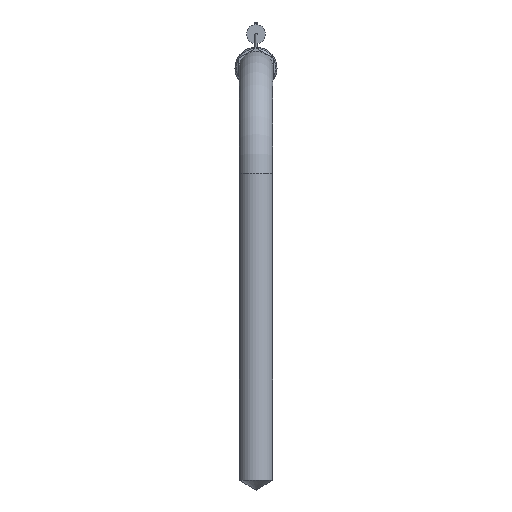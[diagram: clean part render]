
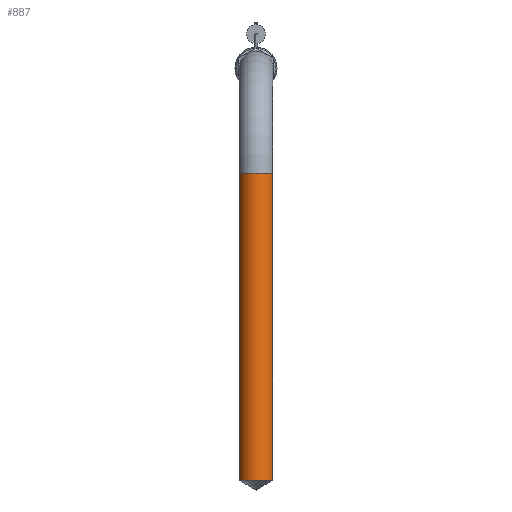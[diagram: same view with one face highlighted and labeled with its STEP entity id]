
A CAD part, top view. The second image highlights one B-rep face of the part: STEP entity #887.
In plain terms, the highlighted cylindrical face has radius 4 mm (diameter 8 mm), a full revolution.
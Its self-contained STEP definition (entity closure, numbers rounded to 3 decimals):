
#108 = VERTEX_POINT ( 'NONE', #2489 ) ;
#265 = ORIENTED_EDGE ( 'NONE', *, *, #2783, .T. ) ;
#327 = DIRECTION ( 'NONE',  ( 0., 1., 0. ) ) ;
#469 = CARTESIAN_POINT ( 'NONE',  ( 0., -97.7, 39. ) ) ;
#473 = CARTESIAN_POINT ( 'NONE',  ( 0., -25., 35. ) ) ;
#487 = AXIS2_PLACEMENT_3D ( 'NONE', #1848, #327, #1835 ) ;
#730 = ORIENTED_EDGE ( 'NONE', *, *, #1490, .T. ) ;
#887 = ADVANCED_FACE ( 'NONE', ( #1155, #958 ), #1616, .T. ) ;
#955 = DIRECTION ( 'NONE',  ( -1., 0., 0. ) ) ;
#958 = FACE_OUTER_BOUND ( 'NONE', #1465, .T. ) ;
#1036 = CIRCLE ( 'NONE', #1982, 4. ) ;
#1127 = DIRECTION ( 'NONE',  ( 0., -1., 0. ) ) ;
#1155 = FACE_OUTER_BOUND ( 'NONE', #2800, .T. ) ;
#1465 = EDGE_LOOP ( 'NONE', ( #265 ) ) ;
#1490 = EDGE_CURVE ( 'NONE', #2408, #2408, #2292, .T. ) ;
#1616 = CYLINDRICAL_SURFACE ( 'NONE', #1920, 4. ) ;
#1835 = DIRECTION ( 'NONE',  ( 0., 0., 1. ) ) ;
#1848 = CARTESIAN_POINT ( 'NONE',  ( 0., -97.7, 35. ) ) ;
#1920 = AXIS2_PLACEMENT_3D ( 'NONE', #473, #1127, #2216 ) ;
#1982 = AXIS2_PLACEMENT_3D ( 'NONE', #2663, #2437, #955 ) ;
#2216 = DIRECTION ( 'NONE',  ( 0., 0., 1. ) ) ;
#2292 = CIRCLE ( 'NONE', #487, 4. ) ;
#2408 = VERTEX_POINT ( 'NONE', #469 ) ;
#2437 = DIRECTION ( 'NONE',  ( 0., -1., 0. ) ) ;
#2489 = CARTESIAN_POINT ( 'NONE',  ( -4., -25., 35. ) ) ;
#2663 = CARTESIAN_POINT ( 'NONE',  ( 0., -25., 35. ) ) ;
#2783 = EDGE_CURVE ( 'NONE', #108, #108, #1036, .T. ) ;
#2800 = EDGE_LOOP ( 'NONE', ( #730 ) ) ;
